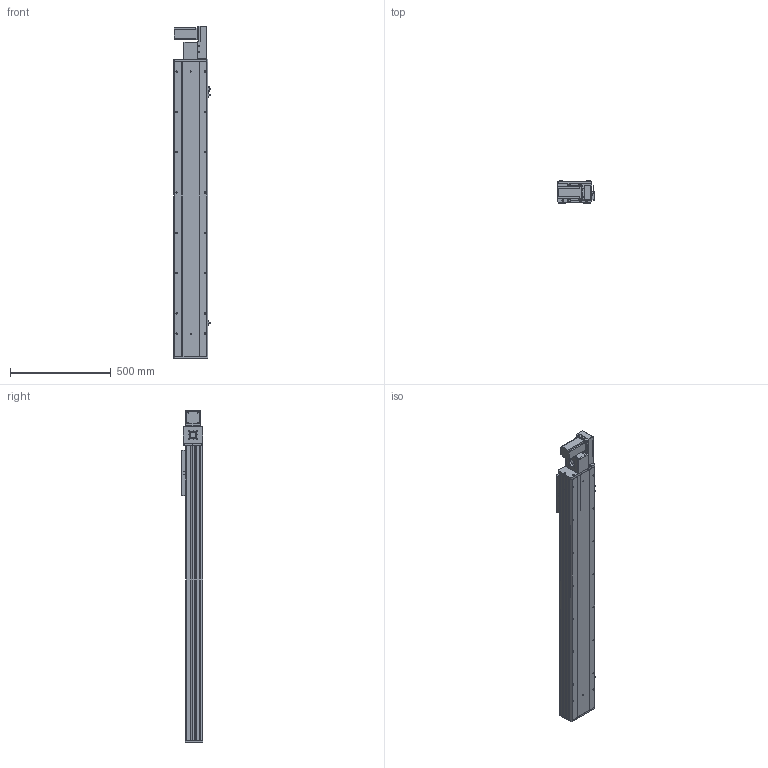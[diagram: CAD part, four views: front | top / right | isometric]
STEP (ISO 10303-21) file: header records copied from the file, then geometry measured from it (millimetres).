
FILE_DESCRIPTION (( 'STEP AP203' ), '1' );
FILE_NAME ('Y170CB-D105-S1150-BR-P400W.STEP', '2020-02-19T09:12:54', ( '微软用户' ), ( '微软中国' ), 'SwSTEP 2.0', 'SolidWorks 2017', '' );
FILE_SCHEMA (( 'CONFIG_CONTROL_DESIGN' ));
Length unit declared in the file: millimetre
Products named in the file (17): 70B喘謫眊----; B-源倛裔啣; 17B-耜蚾蟀諉啣----; 0B-萇儂楊擘啣; san松下电机400不带刹车----; Y70俋欶BR----; 70CB-掛极-; --70CB --喘謫眊楊擘啣-; 70CB-耜裔啣-; 70C--詩湍揤踡え-; 70CB--耜裔; 70C-雄赽釱-奻-; 0C--雄赽釱俋欶-170; 70CB-詩湍--; Y100-135俋离換覜ん--; Y170CB-陔俋离換覜結え---; Y170CB-D105-S1150-BR-P400W
Assembly tree (20 placements, depth 2):
  Y170CB-D105-S1150-BR-P400W
    70B喘謫眊----
    B-源倛裔啣
    17B-耜蚾蟀諉啣----
    0B-萇儂楊擘啣
    san松下电机400不带刹车----
    Y70俋欶BR----
    70CB-掛极-
    --70CB --喘謫眊楊擘啣-
    70CB-耜裔啣-  x2
    70C--詩湍揤踡え-  x2
    70CB--耜裔
    70C-雄赽釱-奻-
    0C--雄赽釱俋欶-170
    70CB-詩湍--
    Y100-135俋离換覜ん--  x3
    Y170CB-陔俋离換覜結え---
Bounding box: 183.5 x 107 x 1647 mm (x, y, z)
Volume: 7122669.5 mm3; surface area: 2548851.1 mm2
Topology: 20 solids, 20 shells, 1001 faces, 2681 edges, 1778 vertices
Faces by surface type: cylinder 515, plane 462, cone 24
Entity records: 31751 total; most frequent: CARTESIAN_POINT 5841, DIRECTION 5164, ORIENTED_EDGE 4844, EDGE_CURVE 2422, AXIS2_PLACEMENT_3D 1885, VERTEX_POINT 1608, LINE 1394, VECTOR 1394
